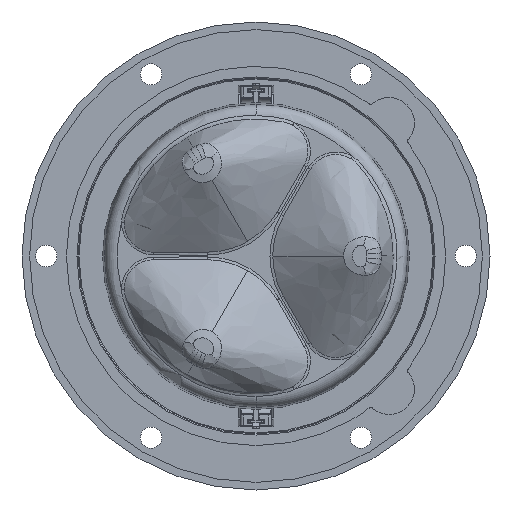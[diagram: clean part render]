
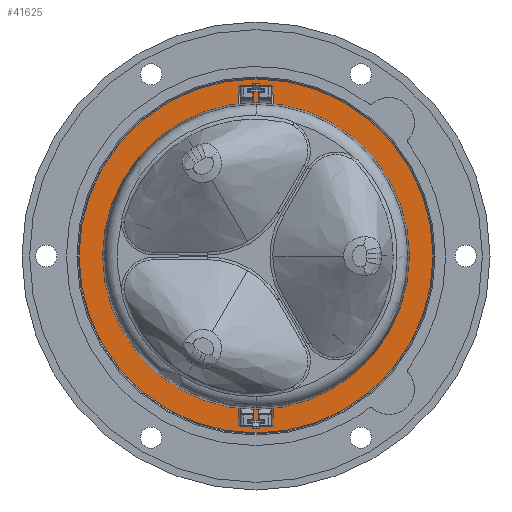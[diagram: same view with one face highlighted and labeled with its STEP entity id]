
A CAD part, front view. The second image highlights one B-rep face of the part: STEP entity #41625.
In plain terms, the highlighted planar face has unit normal (0, -1, 0).
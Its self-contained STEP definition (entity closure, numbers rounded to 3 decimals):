
#1133 = CARTESIAN_POINT ( 'NONE',  ( 0., 19.3, -17.311 ) ) ;
#1352 = CIRCLE ( 'NONE', #12882, 34.8 ) ;
#1719 = VERTEX_POINT ( 'NONE', #12070 ) ;
#2834 = ORIENTED_EDGE ( 'NONE', *, *, #10596, .T. ) ;
#2894 = EDGE_CURVE ( 'NONE', #1719, #7456, #38178, .T. ) ;
#3272 = PLANE ( 'NONE',  #6550 ) ;
#3762 = CARTESIAN_POINT ( 'NONE',  ( 0., 19.3, 0. ) ) ;
#3969 = DIRECTION ( 'NONE',  ( -1., 0., 0. ) ) ;
#4284 = CARTESIAN_POINT ( 'NONE',  ( 34.8, 19.3, 0. ) ) ;
#6550 = AXIS2_PLACEMENT_3D ( 'NONE', #1133, #10245, #40094 ) ;
#7456 = VERTEX_POINT ( 'NONE', #10667 ) ;
#10039 = FACE_OUTER_BOUND ( 'NONE', #39592, .T. ) ;
#10245 = DIRECTION ( 'NONE',  ( 0., -1., 0. ) ) ;
#10596 = EDGE_CURVE ( 'NONE', #28830, #31606, #22716, .T. ) ;
#10627 = CARTESIAN_POINT ( 'NONE',  ( -28.338, 19.3, -56.675 ) ) ;
#10667 = CARTESIAN_POINT ( 'NONE',  ( -28.338, 19.3, 0. ) ) ;
#11042 = CARTESIAN_POINT ( 'NONE',  ( 28.337, 19.3, -56.675 ) ) ;
#11555 = CARTESIAN_POINT ( 'NONE',  ( 28.337, 19.3, 0. ) ) ;
#12070 = CARTESIAN_POINT ( 'NONE',  ( 28.337, 19.3, 0. ) ) ;
#12882 = AXIS2_PLACEMENT_3D ( 'NONE', #3762, #29738, #3969 ) ;
#12943 = DIRECTION ( 'NONE',  ( 0., -1., 0. ) ) ;
#14514 = ORIENTED_EDGE ( 'NONE', *, *, #31227, .F. ) ;
#16456 = EDGE_CURVE ( 'NONE', #31606, #28830, #1352, .T. ) ;
#17749 = CARTESIAN_POINT ( 'NONE',  ( -28.338, 19.3, 0. ) ) ;
#22026 = AXIS2_PLACEMENT_3D ( 'NONE', #26375, #12943, #38997 ) ;
#22716 = CIRCLE ( 'NONE', #22026, 34.8 ) ;
#24753 = CARTESIAN_POINT ( 'NONE',  ( 28.337, 19.3, 56.675 ) ) ;
#26239 = FACE_BOUND ( 'NONE', #38404, .T. ) ;
#26350 = CARTESIAN_POINT ( 'NONE',  ( -34.8, 19.3, 0. ) ) ;
#26375 = CARTESIAN_POINT ( 'NONE',  ( 0., 19.3, 0. ) ) ;
#27949 = ORIENTED_EDGE ( 'NONE', *, *, #2894, .F. ) ;
#27994 = CARTESIAN_POINT ( 'NONE',  ( -28.338, 19.3, 56.675 ) ) ;
#28830 = VERTEX_POINT ( 'NONE', #4284 ) ;
#29738 = DIRECTION ( 'NONE',  ( 0., -1., 0. ) ) ;
#29790 = ORIENTED_EDGE ( 'NONE', *, *, #16456, .T. ) ;
#30237 = CARTESIAN_POINT ( 'NONE',  ( -28.338, 19.3, 0. ) ) ;
#31227 = EDGE_CURVE ( 'NONE', #7456, #1719, #42049, .T. ) ;
#31606 = VERTEX_POINT ( 'NONE', #26350 ) ;
#38178 =( BOUNDED_CURVE ( )  B_SPLINE_CURVE ( 3, ( #11555, #24753, #27994, #17749 ),
 .UNSPECIFIED., .F., .F. ) 
 B_SPLINE_CURVE_WITH_KNOTS ( ( 4, 4 ),
 ( 0., 3.142 ),
 .UNSPECIFIED. ) 
 CURVE ( )  GEOMETRIC_REPRESENTATION_ITEM ( )  RATIONAL_B_SPLINE_CURVE ( ( 1., 0.333, 0.333, 1. ) ) 
 REPRESENTATION_ITEM ( '' )  );
#38404 = EDGE_LOOP ( 'NONE', ( #27949, #14514 ) ) ;
#38997 = DIRECTION ( 'NONE',  ( -1., 0., 0. ) ) ;
#39592 = EDGE_LOOP ( 'NONE', ( #29790, #2834 ) ) ;
#40042 = CARTESIAN_POINT ( 'NONE',  ( 28.337, 19.3, 0. ) ) ;
#40094 = DIRECTION ( 'NONE',  ( -1., 0., 0. ) ) ;
#41625 = ADVANCED_FACE ( 'NONE', ( #26239, #10039 ), #3272, .T. ) ;
#42049 =( BOUNDED_CURVE ( )  B_SPLINE_CURVE ( 3, ( #30237, #10627, #11042, #40042 ),
 .UNSPECIFIED., .F., .F. ) 
 B_SPLINE_CURVE_WITH_KNOTS ( ( 4, 4 ),
 ( 3.142, 6.283 ),
 .UNSPECIFIED. ) 
 CURVE ( )  GEOMETRIC_REPRESENTATION_ITEM ( )  RATIONAL_B_SPLINE_CURVE ( ( 1., 0.333, 0.333, 1. ) ) 
 REPRESENTATION_ITEM ( '' )  );
